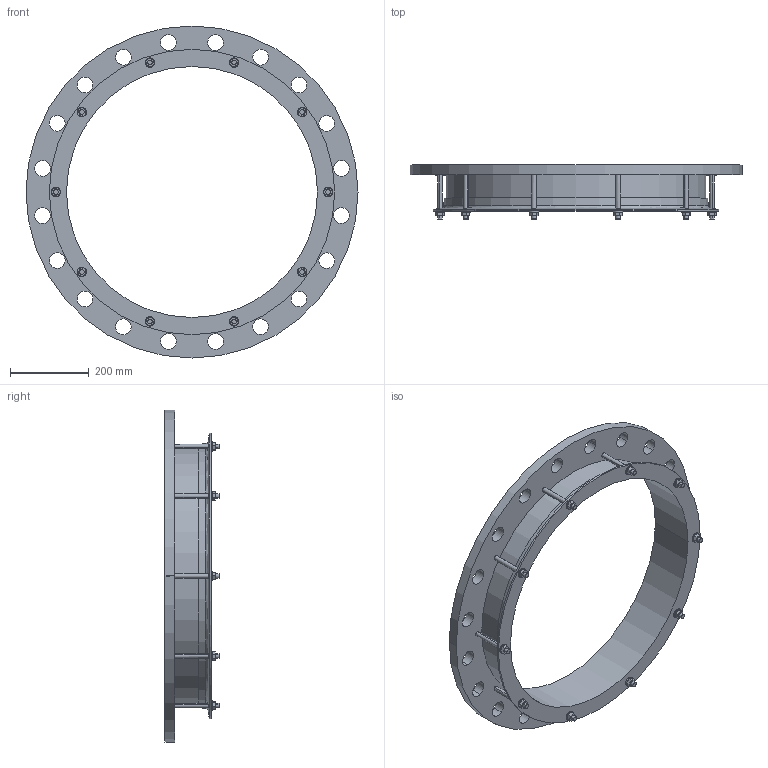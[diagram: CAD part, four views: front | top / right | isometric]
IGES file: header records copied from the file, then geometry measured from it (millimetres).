
Start section:  PTC IGES file: 635x600pn25.igs
Global section: file name: 635x600pn25.igs; native system: Creo Parametric by PTC Inc.; preprocessor: 2016130; author: mfairey; organization: Unknown; date: 20190404.123056; units: millimetre
Bounding box: 845 x 137.45 x 845 mm (x, y, z)
Surface area: 1158293.5 mm2 (no closed solid volume)
Topology: 0 solids, 0 shells, 208 faces, 1096 edges, 1096 vertices
Faces by surface type: revolution 114, bspline 94
